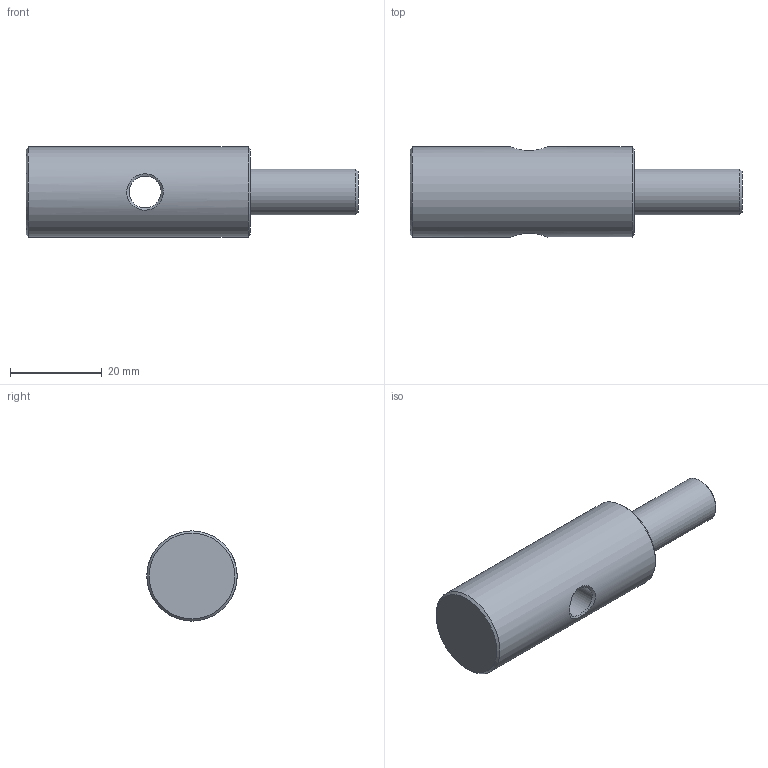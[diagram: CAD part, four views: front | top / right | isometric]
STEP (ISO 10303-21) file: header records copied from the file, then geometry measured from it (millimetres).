
FILE_DESCRIPTION(('STEP AP242'), '1');
FILE_NAME('晑.30.06.2026 - 櫻蠉錪', '', ('UNSPECIFIED'), ('UNSPECIFIED'), 'C3D Converter', 'C3D Toolkit', '');
FILE_SCHEMA(('AP242_MANAGED_MODEL_BASED_3D_ENGINEERING_MIM_LF { 1 0 10303 442 1 1 4 }'));
Length unit declared in the file: millimetre
Products named in the file (1): СЦ.30.06.2026
Bounding box: 72.5 x 19.7 x 19.7 mm (x, y, z)
Volume: 16011.2 mm3; surface area: 4660.5 mm2
Topology: 1 solids, 1 shells, 12 faces, 34 edges, 26 vertices
Faces by surface type: cylinder 3, plane 3, bspline 3, cone 3
Full cylindrical faces by diameter (mm): 7 x1, 10 x1, 19.7 x1
Entity records: 4026 total; most frequent: CARTESIAN_POINT 3548, DIRECTION 62, AXIS2_PLACEMENT_3D 30, ORIENTED_EDGE 30, EDGE_LOOP 22, COLOUR_RGB 19, PRESENTATION_STYLE_ASSIGNMENT 19, CURVE_STYLE 16
